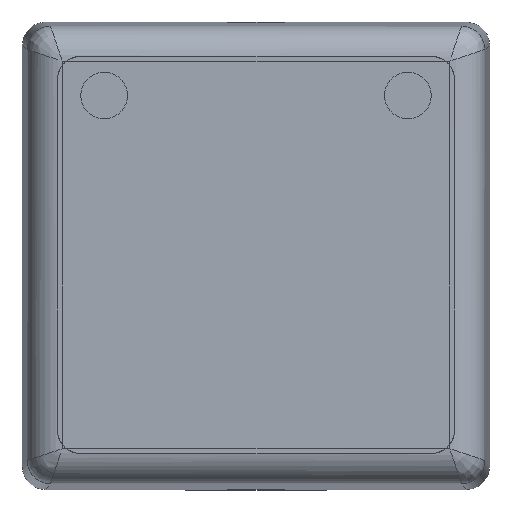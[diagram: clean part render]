
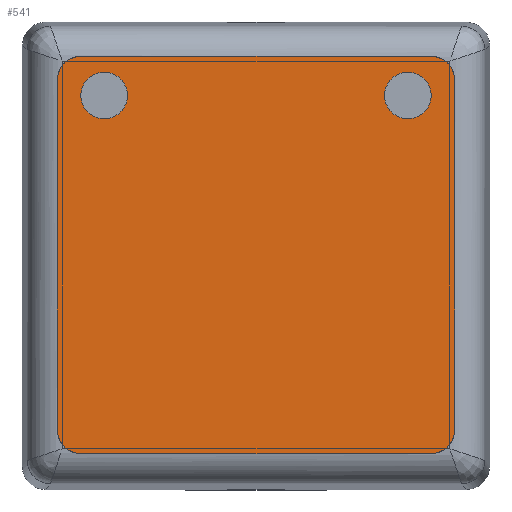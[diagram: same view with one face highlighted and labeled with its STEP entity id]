
A CAD part, top view. The second image highlights one B-rep face of the part: STEP entity #541.
In plain terms, the highlighted planar face has unit normal (0, 0, 1).
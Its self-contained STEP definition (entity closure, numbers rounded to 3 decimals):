
#199=CARTESIAN_POINT('',(17.0,-15.0,44.84));
#200=VERTEX_POINT('',#199);
#201=CARTESIAN_POINT('',(15.,-17.0,44.84));
#202=VERTEX_POINT('',#201);
#203=CARTESIAN_POINT('',(15.,-15.0,44.84));
#204=DIRECTION('',(0.,0.,-1.0));
#205=DIRECTION('',(0.707,-0.707,0.));
#206=AXIS2_PLACEMENT_3D('',#203,#204,#205);
#207=CIRCLE('',#206,2.0);
#208=EDGE_CURVE('',#200,#202,#207,.T.);
#258=CARTESIAN_POINT('',(17.0,15.,44.84));
#259=VERTEX_POINT('',#258);
#266=CARTESIAN_POINT('',(17.0,15.0,44.84));
#267=DIRECTION('',(0.0,-1.0,0.0));
#268=VECTOR('',#267,30.0);
#269=LINE('',#266,#268);
#270=EDGE_CURVE('',#259,#200,#269,.T.);
#305=CARTESIAN_POINT('',(-15.0,-17.0,44.84));
#306=VERTEX_POINT('',#305);
#307=CARTESIAN_POINT('',(-17.0,-15.,44.84));
#308=VERTEX_POINT('',#307);
#309=CARTESIAN_POINT('',(-15.0,-15.,44.84));
#310=DIRECTION('',(0.,0.,-1.0));
#311=DIRECTION('',(-0.707,-0.707,0.));
#312=AXIS2_PLACEMENT_3D('',#309,#310,#311);
#313=CIRCLE('',#312,2.0);
#314=EDGE_CURVE('',#306,#308,#313,.T.);
#346=CARTESIAN_POINT('',(-17.0,15.0,44.84));
#347=VERTEX_POINT('',#346);
#348=CARTESIAN_POINT('',(-17.0,-15.0,44.84));
#349=DIRECTION('',(0.0,1.0,0.0));
#350=VECTOR('',#349,30.0);
#351=LINE('',#348,#350);
#352=EDGE_CURVE('',#308,#347,#351,.T.);
#369=CARTESIAN_POINT('',(-15.,17.0,44.84));
#370=VERTEX_POINT('',#369);
#371=CARTESIAN_POINT('',(-15.,15.0,44.84));
#372=DIRECTION('',(0.,0.,-1.0));
#373=DIRECTION('',(-0.707,0.707,0.));
#374=AXIS2_PLACEMENT_3D('',#371,#372,#373);
#375=CIRCLE('',#374,2.0);
#376=EDGE_CURVE('',#347,#370,#375,.T.);
#402=CARTESIAN_POINT('',(15.0,17.0,44.84));
#403=VERTEX_POINT('',#402);
#404=CARTESIAN_POINT('',(15.0,15.,44.84));
#405=DIRECTION('',(0.,0.,-1.0));
#406=DIRECTION('',(0.707,0.707,0.));
#407=AXIS2_PLACEMENT_3D('',#404,#405,#406);
#408=CIRCLE('',#407,2.0);
#409=EDGE_CURVE('',#403,#259,#408,.T.);
#446=CARTESIAN_POINT('',(-15.0,13.65,44.84));
#447=VERTEX_POINT('',#446);
#448=CARTESIAN_POINT('',(-13.0,13.65,44.84));
#449=DIRECTION('',(0.0,0.0,-1.0));
#450=DIRECTION('',(-1.0,0.0,0.0));
#451=AXIS2_PLACEMENT_3D('',#448,#449,#450);
#452=CIRCLE('',#451,2.0);
#453=EDGE_CURVE('',#447,#447,#452,.T.);
#474=CARTESIAN_POINT('',(11.0,13.65,44.84));
#475=VERTEX_POINT('',#474);
#476=CARTESIAN_POINT('',(13.0,13.65,44.84));
#477=DIRECTION('',(0.0,0.0,-1.0));
#478=DIRECTION('',(-1.0,0.0,0.0));
#479=AXIS2_PLACEMENT_3D('',#476,#477,#478);
#480=CIRCLE('',#479,2.0);
#481=EDGE_CURVE('',#475,#475,#480,.T.);
#492=CARTESIAN_POINT('',(-15.0,17.0,44.84));
#493=DIRECTION('',(1.0,0.0,0.0));
#494=VECTOR('',#493,30.0);
#495=LINE('',#492,#494);
#496=EDGE_CURVE('',#370,#403,#495,.T.);
#509=CARTESIAN_POINT('',(15.0,-17.0,44.84));
#510=DIRECTION('',(-1.0,0.0,0.0));
#511=VECTOR('',#510,30.0);
#512=LINE('',#509,#511);
#513=EDGE_CURVE('',#202,#306,#512,.T.);
#520=CARTESIAN_POINT('',(0.,0.,44.84));
#521=DIRECTION('',(0.0,0.0,1.0));
#522=DIRECTION('',(-1.0,0.0,0.0));
#523=AXIS2_PLACEMENT_3D('',#520,#521,#522);
#524=PLANE('',#523);
#525=ORIENTED_EDGE('',*,*,#208,.F.);
#526=ORIENTED_EDGE('',*,*,#270,.F.);
#527=ORIENTED_EDGE('',*,*,#409,.F.);
#528=ORIENTED_EDGE('',*,*,#496,.F.);
#529=ORIENTED_EDGE('',*,*,#376,.F.);
#530=ORIENTED_EDGE('',*,*,#352,.F.);
#531=ORIENTED_EDGE('',*,*,#314,.F.);
#532=ORIENTED_EDGE('',*,*,#513,.F.);
#533=EDGE_LOOP('',(#525,#526,#527,#528,#529,#530,#531,#532));
#534=FACE_OUTER_BOUND('',#533,.T.);
#535=ORIENTED_EDGE('',*,*,#453,.T.);
#536=EDGE_LOOP('',(#535));
#537=FACE_BOUND('',#536,.T.);
#538=ORIENTED_EDGE('',*,*,#481,.T.);
#539=EDGE_LOOP('',(#538));
#540=FACE_BOUND('',#539,.T.);
#541=ADVANCED_FACE('',(#534,#537,#540),#524,.T.);
